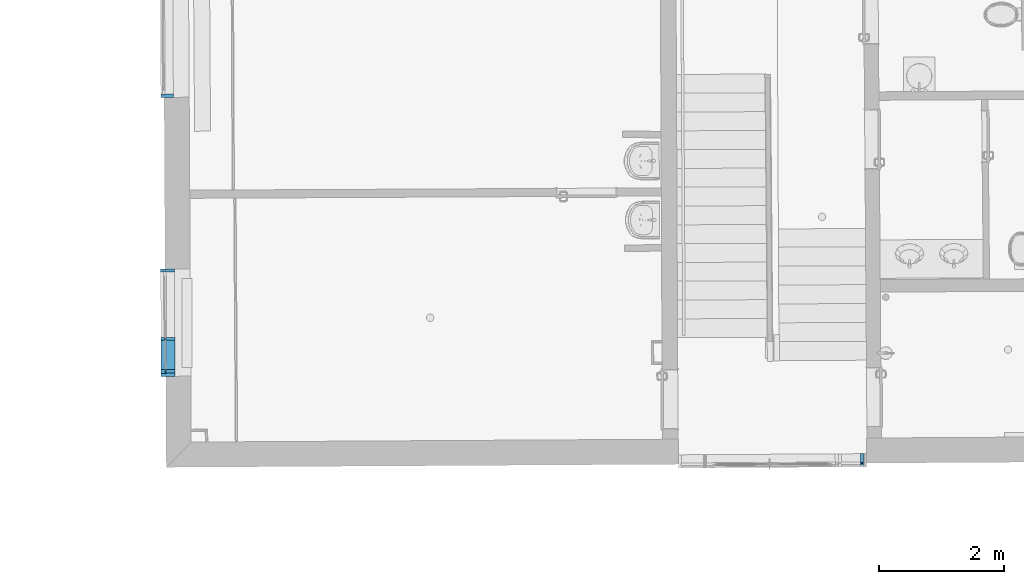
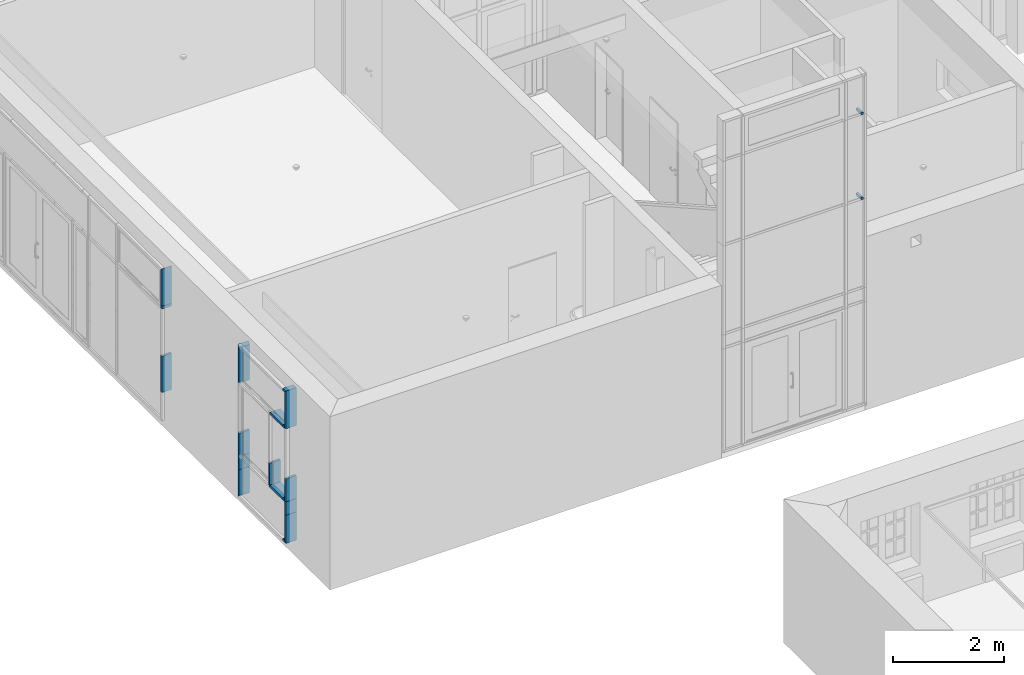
# One storey, part 149 of 196: 20 building element parts, 3 elements without a shape of their own.
"""IFC2X3 building model written with IfcOpenShell, lengths in metres."""

from ifc_helpers import new_model, entity, si_unit, converted_unit, derived_unit, money_unit, direction, frame, origin_with_axes, place, context, subcontext, project, spatial, faceted_brep, material, type_object, element, aggregate, save


model = new_model("IFC2X3")

# Units and contexts
model_context = context("Model", 3, precision=1e-05, world=origin_with_axes(), true_north=direction((0.0, 1.0)))
body_context = subcontext(model_context, "Body", "Model", "MODEL_VIEW")
ifc_project = project(units=[si_unit("LENGTHUNIT", "METRE"), si_unit("AREAUNIT", "SQUARE_METRE"), si_unit("VOLUMEUNIT", "CUBIC_METRE"), converted_unit("PLANEANGLEUNIT", "DEGREE", entity("IfcPlaneAngleMeasure", 0.0174532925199), si_unit("PLANEANGLEUNIT", "RADIAN"), dimensions=[0, 0, 0, 0, 0, 0, 0]), money_unit("EUR"), converted_unit("TIMEUNIT", "Year", entity("IfcTimeMeasure", 31556926.0), si_unit("TIMEUNIT", "SECOND"), dimensions=[0, 0, 1, 0, 0, 0, 0]), si_unit("MASSUNIT", "GRAM", prefix="KILO"), si_unit("THERMODYNAMICTEMPERATUREUNIT", "DEGREE_CELSIUS"), si_unit("LUMINOUSINTENSITYUNIT", "LUMEN"), si_unit("ENERGYUNIT", "JOULE", prefix="MEGA"), derived_unit("THERMALCONDUCTANCEUNIT", [(si_unit("POWERUNIT", "WATT"), 1), (si_unit("LENGTHUNIT", "METRE"), -1), (si_unit("THERMODYNAMICTEMPERATUREUNIT", "KELVIN"), -1)]), derived_unit("SPECIFICHEATCAPACITYUNIT", [(si_unit("ENERGYUNIT", "JOULE"), 1), (si_unit("MASSUNIT", "GRAM", prefix="KILO"), -1), (si_unit("THERMODYNAMICTEMPERATUREUNIT", "KELVIN"), -1)]), derived_unit("MASSDENSITYUNIT", [(si_unit("MASSUNIT", "GRAM", prefix="KILO"), 1), (si_unit("VOLUMEUNIT", "CUBIC_METRE"), -1)])], contexts=[model_context])

# Site, building, storey
site_placement = place(None, origin_with_axes())
site = spatial("IfcSite", under=ifc_project, at=site_placement, Name="Gelände", CompositionType="ELEMENT")
building_placement = place(site_placement, origin_with_axes())
building = spatial("IfcBuilding", under=site, at=building_placement, Name="Gebäude", CompositionType="ELEMENT")
storey_placement = place(building_placement, frame((0.0, 0.0, -3.0), z_axis=(0.0, 0.0, 1.0), x_axis=(1.0, 0.0, 0.0)))
storey = spatial("IfcBuildingStorey", under=building, at=storey_placement, Name="KELLERGESCHOSS", CompositionType="ELEMENT", Elevation=-3.0)

# Proxy, building element parts
building_element_proxy_type = type_object("IfcBuildingElementProxyType", Name="Fassadentyp", PredefinedType="NOTDEFINED")
proxy_1_placement = place(storey_placement, frame((-34.829315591, 32.8962799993, 0.42102562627), z_axis=(0.0, 0.0, 1.0), x_axis=(1.0, 0.0, 0.0)))
proxy_1 = element("IfcBuildingElementProxy", 1, at=proxy_1_placement, inside=storey, type_object=building_element_proxy_type, Name="Fassade-002")
ifc_material = material(Name="53_Metall, Aluminium")
building_element_part_1_placement = place(proxy_1_placement, origin_with_axes())
building_element_part_1 = element("IfcBuildingElementPart", 2, at=building_element_part_1_placement, material=ifc_material, Name="53_Metall, Aluminium", context=body_context, shape_type="Brep", body=[
    faceted_brep([(0.0131862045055, -0.555299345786, 0.904643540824), (0.0131862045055, -0.555299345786, 0.889643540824), (0.153183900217, -0.554496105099, 0.889643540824), (0.153183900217, -0.554496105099, 0.939643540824), (0.0131862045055, -0.555299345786, 0.939643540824), (0.0131862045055, -0.555299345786, 0.924643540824), (-0.00681346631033, -0.555414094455, 0.924643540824), (-0.00681346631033, -0.555414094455, 0.939643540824), (-0.0668124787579, -0.555758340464, 0.939643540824), (-0.0668124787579, -0.555758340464, 0.889643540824), (-0.00681346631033, -0.555414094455, 0.889643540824), (-0.00681346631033, -0.555414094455, 0.904643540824), (0.0128502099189, -0.496738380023, 0.904643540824), (0.0128502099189, -0.496738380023, 0.889643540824), (0.152847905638, -0.495935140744, 0.889643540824), (0.152847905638, -0.495935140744, 0.939643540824), (0.0128502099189, -0.496738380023, 0.939643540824), (0.0128502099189, -0.496738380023, 0.924643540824), (-0.00714946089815, -0.496853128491, 0.924643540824), (-0.00714946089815, -0.496853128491, 0.939643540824), (-0.0671484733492, -0.497197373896, 0.939643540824), (-0.0671484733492, -0.497197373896, 0.889643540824), (-0.00714946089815, -0.496853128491, 0.889643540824), (-0.00714946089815, -0.496853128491, 0.904643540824)], [[[0, 1, 2, 3, 4, 5, 6, 7, 8, 9, 10, 11]], [[1, 0, 12, 13]], [[1, 13, 14, 2]], [[3, 2, 14, 15]], [[4, 3, 15, 16]], [[4, 16, 17, 5]], [[5, 17, 18, 6]], [[7, 6, 18, 19]], [[19, 20, 8, 7]], [[9, 8, 20, 21]], [[22, 10, 9, 21]], [[11, 10, 22, 23]], [[0, 11, 23, 12]], [[23, 22, 21, 20, 19, 18, 17, 16, 15, 14, 13, 12]]]),
])
building_element_part_2_placement = place(proxy_1_placement, origin_with_axes())
building_element_part_2 = element("IfcBuildingElementPart", 3, at=building_element_part_2_placement, material=ifc_material, Name="53_Metall, Aluminium", context=body_context, shape_type="Brep", body=[
    faceted_brep([(0.0131862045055, -0.555299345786, 2.5099999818), (0.0131862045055, -0.555299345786, 2.4949999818), (0.153183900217, -0.554496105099, 2.4949999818), (0.153183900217, -0.554496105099, 2.5449999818), (0.0131862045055, -0.555299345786, 2.5449999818), (0.0131862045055, -0.555299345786, 2.5299999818), (-0.00681346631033, -0.555414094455, 2.5299999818), (-0.00681346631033, -0.555414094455, 2.5449999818), (-0.0668124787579, -0.555758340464, 2.5449999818), (-0.0668124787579, -0.555758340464, 2.4949999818), (-0.00681346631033, -0.555414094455, 2.4949999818), (-0.00681346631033, -0.555414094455, 2.5099999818), (0.0128502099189, -0.496738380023, 2.5099999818), (0.0128502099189, -0.496738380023, 2.4949999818), (0.152847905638, -0.495935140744, 2.4949999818), (0.152847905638, -0.495935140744, 2.5449999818), (0.0128502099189, -0.496738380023, 2.5449999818), (0.0128502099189, -0.496738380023, 2.5299999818), (-0.00714946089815, -0.496853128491, 2.5299999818), (-0.00714946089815, -0.496853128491, 2.5449999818), (-0.0671484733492, -0.497197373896, 2.5449999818), (-0.0671484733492, -0.497197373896, 2.4949999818), (-0.00714946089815, -0.496853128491, 2.4949999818), (-0.00714946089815, -0.496853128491, 2.5099999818)], [[[0, 1, 2, 3, 4, 5, 6, 7, 8, 9, 10, 11]], [[1, 0, 12, 13]], [[1, 13, 14, 2]], [[3, 2, 14, 15]], [[4, 3, 15, 16]], [[4, 16, 17, 5]], [[5, 17, 18, 6]], [[7, 6, 18, 19]], [[19, 20, 8, 7]], [[9, 8, 20, 21]], [[22, 10, 9, 21]], [[11, 10, 22, 23]], [[0, 11, 23, 12]], [[23, 22, 21, 20, 19, 18, 17, 16, 15, 14, 13, 12]]]),
])
building_element_part_3_placement = place(proxy_1_placement, origin_with_axes())
building_element_part_3 = element("IfcBuildingElementPart", 4, at=building_element_part_3_placement, material=ifc_material, Name="53_Metall, Aluminium", context=body_context, shape_type="Brep", body=[
    faceted_brep([(0.0132722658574, -0.570299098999, 0.0349999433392), (-0.0067274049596, -0.570413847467, 0.0349999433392), (-0.0068134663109, -0.555414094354, 0.0499999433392), (-0.0668124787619, -0.55575833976, 0.0499999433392), (-0.0665256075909, -0.605757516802, -5.6660805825e-08), (0.153470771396, -0.60449528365, -5.6660805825e-08), (0.153183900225, -0.554496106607, 0.0499999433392), (0.0131862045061, -0.555299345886, 0.0499999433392), (0.0128502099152, -0.49673837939, 0.0349999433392), (-0.00714946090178, -0.496853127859, 0.0349999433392), (-0.00714946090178, -0.496853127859, 0.0499999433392), (-0.0671484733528, -0.497197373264, 0.0499999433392), (-0.0671484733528, -0.497197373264, -5.6660805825e-08), (0.152847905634, -0.495935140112, -5.6660805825e-08), (0.152847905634, -0.495935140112, 0.0499999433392), (0.0128502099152, -0.49673837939, 0.0499999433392)], [[[0, 1, 2, 3, 4, 5, 6, 7]], [[1, 0, 8, 9]], [[10, 2, 1, 9]], [[2, 10, 11, 3]], [[12, 4, 3, 11]], [[13, 5, 4, 12]], [[14, 6, 5, 13]], [[15, 7, 6, 14]], [[0, 7, 15, 8]], [[8, 15, 14, 13, 12, 11, 10, 9]]]),
])
building_element_part_4_placement = place(proxy_1_placement, origin_with_axes())
building_element_part_4 = element("IfcBuildingElementPart", 5, at=building_element_part_4_placement, material=ifc_material, Name="53_Metall, Aluminium", context=body_context, shape_type="Brep", body=[
    faceted_brep([(0.0101041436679, -0.0181226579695, 1.4199999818), (0.0101902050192, -0.0331224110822, 1.4199999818), (0.150187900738, -0.0323191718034, 1.4199999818), (0.149901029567, 0.0176800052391, 1.4199999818), (0.00990333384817, 0.0168767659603, 1.4199999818), (0.00998939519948, 0.00187701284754, 1.4199999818), (-0.0100102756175, 0.00176226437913, 1.4199999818), (-0.0100963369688, 0.0167620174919, 1.4199999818), (-0.0700953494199, 0.0164177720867, 1.4199999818), (-0.0698084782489, -0.0335814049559, 1.4199999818), (-0.00980946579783, -0.0332371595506, 1.4199999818), (-0.00989552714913, -0.0182374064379, 1.4199999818), (0.0101041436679, -0.0181226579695, 0.920851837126), (0.0101902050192, -0.0331224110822, 0.920851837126), (0.150187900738, -0.0323191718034, 0.920851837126), (0.149901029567, 0.0176800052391, 0.920851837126), (0.00990333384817, 0.0168767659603, 0.920851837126), (0.00998939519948, 0.00187701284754, 0.920851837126), (-0.0100102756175, 0.00176226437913, 0.920851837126), (-0.0100963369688, 0.0167620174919, 0.920851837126), (-0.0700953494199, 0.0164177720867, 0.920851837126), (-0.0698084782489, -0.0335814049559, 0.920851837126), (-0.00980946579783, -0.0332371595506, 0.920851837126), (-0.00989552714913, -0.0182374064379, 0.920851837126)], [[[0, 1, 2, 3, 4, 5, 6, 7, 8, 9, 10, 11]], [[1, 0, 12, 13]], [[1, 13, 14, 2]], [[3, 2, 14, 15]], [[4, 3, 15, 16]], [[4, 16, 17, 5]], [[5, 17, 18, 6]], [[7, 6, 18, 19]], [[19, 20, 8, 7]], [[9, 8, 20, 21]], [[22, 10, 9, 21]], [[11, 10, 22, 23]], [[0, 11, 23, 12]], [[23, 22, 21, 20, 19, 18, 17, 16, 15, 14, 13, 12]]]),
])
building_element_part_5_placement = place(proxy_1_placement, origin_with_axes())
building_element_part_5 = element("IfcBuildingElementPart", 6, at=building_element_part_5_placement, material=ifc_material, Name="53_Metall, Aluminium", context=body_context, shape_type="Brep", body=[
    faceted_brep([(0.0132722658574, -0.570299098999, 1.4199999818), (-0.0067274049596, -0.570413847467, 1.4199999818), (-0.0068134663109, -0.555414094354, 1.4199999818), (-0.0668124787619, -0.55575833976, 1.4199999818), (-0.0665256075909, -0.605757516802, 1.4199999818), (0.153470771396, -0.60449528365, 1.4199999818), (0.153183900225, -0.554496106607, 1.4199999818), (0.0131862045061, -0.555299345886, 1.4199999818), (0.0132722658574, -0.570299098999, 0.914643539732), (-0.0067274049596, -0.570413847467, 0.914643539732), (-0.0068134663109, -0.555414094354, 0.914643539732), (-0.0668124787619, -0.55575833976, 0.914643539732), (-0.0665256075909, -0.605757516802, 0.914643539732), (0.153470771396, -0.60449528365, 0.914643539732), (0.153183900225, -0.554496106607, 0.914643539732), (0.0131862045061, -0.555299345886, 0.914643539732)], [[[0, 1, 2, 3, 4, 5, 6, 7]], [[1, 0, 8, 9]], [[10, 2, 1, 9]], [[2, 10, 11, 3]], [[12, 4, 3, 11]], [[13, 5, 4, 12]], [[14, 6, 5, 13]], [[15, 7, 6, 14]], [[0, 7, 15, 8]], [[8, 15, 14, 13, 12, 11, 10, 9]]]),
])
building_element_part_6_placement = place(proxy_1_placement, origin_with_axes())
building_element_part_6 = element("IfcBuildingElementPart", 7, at=building_element_part_6_placement, material=ifc_material, Name="53_Metall, Aluminium", context=body_context, shape_type="Brep", body=[
    faceted_brep([(0.0132722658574, -0.570299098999, 0.619999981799), (-0.0067274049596, -0.570413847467, 0.619999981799), (-0.0068134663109, -0.555414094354, 0.619999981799), (-0.0668124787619, -0.55575833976, 0.619999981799), (-0.0665256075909, -0.605757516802, 0.619999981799), (0.153470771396, -0.60449528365, 0.619999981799), (0.153183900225, -0.554496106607, 0.619999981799), (0.0131862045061, -0.555299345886, 0.619999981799), (0.0132722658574, -0.570299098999, 0.0349999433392), (-0.0067274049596, -0.570413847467, 0.0349999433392), (-0.0068134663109, -0.555414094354, 0.0499999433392), (-0.0668124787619, -0.55575833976, 0.0499999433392), (-0.0665256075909, -0.605757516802, -5.66608053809e-08), (0.153470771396, -0.60449528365, -5.66608053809e-08), (0.153183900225, -0.554496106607, 0.0499999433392), (0.0131862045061, -0.555299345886, 0.0499999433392)], [[[0, 1, 2, 3, 4, 5, 6, 7]], [[1, 0, 8, 9]], [[10, 2, 1, 9]], [[2, 10, 11, 3]], [[4, 3, 11, 12]], [[5, 4, 12, 13]], [[6, 5, 13, 14]], [[15, 7, 6, 14]], [[0, 7, 15, 8]], [[8, 15, 14, 13, 12, 11, 10, 9]]]),
])
building_element_part_7_placement = place(proxy_1_placement, origin_with_axes())
building_element_part_7 = element("IfcBuildingElementPart", 8, at=building_element_part_7_placement, material=ifc_material, Name="53_Metall, Aluminium", context=body_context, shape_type="Brep", body=[
    faceted_brep([(0.0132722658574, -0.570299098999, 0.914643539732), (-0.0067274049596, -0.570413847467, 0.914643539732), (-0.0068134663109, -0.555414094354, 0.914643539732), (-0.0668124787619, -0.55575833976, 0.914643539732), (-0.0665256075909, -0.605757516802, 0.914643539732), (0.153470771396, -0.60449528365, 0.914643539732), (0.153183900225, -0.554496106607, 0.914643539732), (0.0131862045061, -0.555299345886, 0.914643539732), (0.0132722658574, -0.570299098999, 0.619999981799), (-0.0067274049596, -0.570413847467, 0.619999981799), (-0.0068134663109, -0.555414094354, 0.619999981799), (-0.0668124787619, -0.55575833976, 0.619999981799), (-0.0665256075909, -0.605757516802, 0.619999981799), (0.153470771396, -0.60449528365, 0.619999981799), (0.153183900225, -0.554496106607, 0.619999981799), (0.0131862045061, -0.555299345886, 0.619999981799)], [[[0, 1, 2, 3, 4, 5, 6, 7]], [[1, 0, 8, 9]], [[10, 2, 1, 9]], [[2, 10, 11, 3]], [[12, 4, 3, 11]], [[13, 5, 4, 12]], [[14, 6, 5, 13]], [[15, 7, 6, 14]], [[0, 7, 15, 8]], [[8, 15, 14, 13, 12, 11, 10, 9]]]),
])
building_element_part_8_placement = place(proxy_1_placement, origin_with_axes())
building_element_part_8 = element("IfcBuildingElementPart", 9, at=building_element_part_8_placement, material=ifc_material, Name="53_Metall, Aluminium", context=body_context, shape_type="Brep", body=[
    faceted_brep([(0.00385356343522, 1.07129970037, 1.4199999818), (0.00393962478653, 1.05629994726, 1.4199999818), (0.143937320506, 1.05710318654, 1.4199999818), (0.143650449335, 1.10710236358, 1.4199999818), (-0.0763459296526, 1.10584013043, 1.4199999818), (-0.0760590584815, 1.05584095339, 1.4199999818), (-0.0160600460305, 1.05618519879, 1.4199999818), (-0.0161461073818, 1.0711849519, 1.4199999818), (0.00385356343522, 1.07129970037, 0.914643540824), (0.00393962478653, 1.05629994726, 0.914643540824), (0.143937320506, 1.05710318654, 0.914643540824), (0.143650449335, 1.10710236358, 0.914643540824), (-0.0763459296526, 1.10584013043, 0.914643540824), (-0.0760590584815, 1.05584095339, 0.914643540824), (-0.0160600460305, 1.05618519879, 0.914643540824), (-0.0161461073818, 1.0711849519, 0.914643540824)], [[[0, 1, 2, 3, 4, 5, 6, 7]], [[0, 8, 9, 1]], [[9, 10, 2, 1]], [[10, 11, 3, 2]], [[11, 12, 4, 3]], [[12, 13, 5, 4]], [[6, 5, 13, 14]], [[14, 15, 7, 6]], [[7, 15, 8, 0]], [[8, 15, 14, 13, 12, 11, 10, 9]]]),
])
building_element_part_9_placement = place(proxy_1_placement, origin_with_axes())
building_element_part_9 = element("IfcBuildingElementPart", 10, at=building_element_part_9_placement, material=ifc_material, Name="53_Metall, Aluminium", context=body_context, shape_type="Brep", body=[
    faceted_brep([(0.00385356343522, 1.07129970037, 3.31499991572), (0.00393962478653, 1.05629994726, 3.29999991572), (0.143937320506, 1.05710318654, 3.29999991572), (0.143650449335, 1.10710236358, 3.34999991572), (-0.0763459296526, 1.10584013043, 3.34999991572), (-0.0760590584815, 1.05584095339, 3.29999991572), (-0.0160600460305, 1.05618519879, 3.29999991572), (-0.0161461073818, 1.0711849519, 3.31499991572), (0.00385356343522, 1.07129970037, 2.5199999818), (0.00393962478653, 1.05629994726, 2.5199999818), (0.143937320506, 1.05710318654, 2.5199999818), (0.143650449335, 1.10710236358, 2.5199999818), (-0.0763459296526, 1.10584013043, 2.5199999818), (-0.0760590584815, 1.05584095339, 2.5199999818), (-0.0160600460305, 1.05618519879, 2.5199999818), (-0.0161461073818, 1.0711849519, 2.5199999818)], [[[0, 1, 2, 3, 4, 5, 6, 7]], [[0, 8, 9, 1]], [[9, 10, 2, 1]], [[10, 11, 3, 2]], [[11, 12, 4, 3]], [[12, 13, 5, 4]], [[6, 5, 13, 14]], [[14, 15, 7, 6]], [[7, 15, 8, 0]], [[8, 15, 14, 13, 12, 11, 10, 9]]]),
])
building_element_part_10_placement = place(proxy_1_placement, origin_with_axes())
building_element_part_10 = element("IfcBuildingElementPart", 11, at=building_element_part_10_placement, material=ifc_material, Name="53_Metall, Aluminium", context=body_context, shape_type="Brep", body=[
    faceted_brep([(0.0132722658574, -0.570299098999, 3.31499991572), (0.0131862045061, -0.555299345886, 3.29999991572), (0.153183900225, -0.554496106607, 3.29999991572), (0.153470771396, -0.60449528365, 3.34999991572), (-0.0665256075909, -0.605757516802, 3.34999991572), (-0.0668124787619, -0.55575833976, 3.29999991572), (-0.0068134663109, -0.555414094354, 3.29999991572), (-0.0067274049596, -0.570413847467, 3.31499991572), (0.0128502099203, -0.496738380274, 3.31499991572), (0.0128502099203, -0.496738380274, 3.29999991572), (0.152847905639, -0.495935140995, 3.29999991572), (0.152847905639, -0.495935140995, 3.34999991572), (-0.0671484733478, -0.497197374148, 3.34999991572), (-0.0671484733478, -0.497197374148, 3.29999991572), (-0.00714946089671, -0.496853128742, 3.29999991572), (-0.00714946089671, -0.496853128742, 3.31499991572)], [[[0, 1, 2, 3, 4, 5, 6, 7]], [[0, 8, 9, 1]], [[9, 10, 2, 1]], [[10, 11, 3, 2]], [[11, 12, 4, 3]], [[12, 13, 5, 4]], [[6, 5, 13, 14]], [[14, 15, 7, 6]], [[7, 15, 8, 0]], [[8, 15, 14, 13, 12, 11, 10, 9]]]),
])
building_element_part_11_placement = place(proxy_1_placement, origin_with_axes())
building_element_part_11 = element("IfcBuildingElementPart", 12, at=building_element_part_11_placement, material=ifc_material, Name="53_Metall, Aluminium", context=body_context, shape_type="Brep", body=[
    faceted_brep([(0.00385356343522, 1.07129970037, 0.619999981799), (0.00393962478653, 1.05629994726, 0.619999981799), (0.143937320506, 1.05710318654, 0.619999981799), (0.143650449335, 1.10710236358, 0.619999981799), (-0.0763459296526, 1.10584013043, 0.619999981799), (-0.0760590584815, 1.05584095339, 0.619999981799), (-0.0160600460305, 1.05618519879, 0.619999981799), (-0.0161461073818, 1.0711849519, 0.619999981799), (0.00385356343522, 1.07129970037, 0.0349999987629), (0.00393962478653, 1.05629994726, 0.0499999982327), (0.143937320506, 1.05710318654, 0.0499999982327), (0.143650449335, 1.10710236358, 0.0), (-0.0763459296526, 1.10584013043, 0.0), (-0.0760590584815, 1.05584095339, 0.0499999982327), (-0.0160600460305, 1.05618519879, 0.0499999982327), (-0.0161461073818, 1.0711849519, 0.0349999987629)], [[[0, 1, 2, 3, 4, 5, 6, 7]], [[0, 8, 9, 1]], [[9, 10, 2, 1]], [[2, 10, 11, 3]], [[3, 11, 12, 4]], [[4, 12, 13, 5]], [[6, 5, 13, 14]], [[14, 15, 7, 6]], [[7, 15, 8, 0]], [[8, 15, 14, 13, 12, 11, 10, 9]]]),
])
building_element_part_12_placement = place(proxy_1_placement, origin_with_axes())
building_element_part_12 = element("IfcBuildingElementPart", 13, at=building_element_part_12_placement, material=ifc_material, Name="53_Metall, Aluminium", context=body_context, shape_type="Brep", body=[
    faceted_brep([(0.0132722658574, -0.570299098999, 3.31499991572), (-0.0067274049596, -0.570413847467, 3.31499991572), (-0.0068134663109, -0.555414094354, 3.29999991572), (-0.0668124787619, -0.55575833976, 3.29999991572), (-0.0665256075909, -0.605757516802, 3.34999991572), (0.153470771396, -0.60449528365, 3.34999991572), (0.153183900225, -0.554496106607, 3.29999991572), (0.0131862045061, -0.555299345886, 3.29999991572), (0.0132722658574, -0.570299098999, 2.5199999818), (-0.0067274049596, -0.570413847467, 2.5199999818), (-0.0068134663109, -0.555414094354, 2.5199999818), (-0.0668124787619, -0.55575833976, 2.5199999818), (-0.0665256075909, -0.605757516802, 2.5199999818), (0.153470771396, -0.60449528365, 2.5199999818), (0.153183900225, -0.554496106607, 2.5199999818), (0.0131862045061, -0.555299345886, 2.5199999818)], [[[0, 1, 2, 3, 4, 5, 6, 7]], [[1, 0, 8, 9]], [[10, 2, 1, 9]], [[2, 10, 11, 3]], [[12, 4, 3, 11]], [[13, 5, 4, 12]], [[14, 6, 5, 13]], [[15, 7, 6, 14]], [[0, 7, 15, 8]], [[8, 15, 14, 13, 12, 11, 10, 9]]]),
])
building_element_part_13_placement = place(proxy_1_placement, origin_with_axes())
building_element_part_13 = element("IfcBuildingElementPart", 14, at=building_element_part_13_placement, material=ifc_material, Name="53_Metall, Aluminium", context=body_context, shape_type="Brep", body=[
    faceted_brep([(0.0128502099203, -0.496738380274, 2.5099999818), (0.0128502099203, -0.496738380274, 2.4949999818), (0.152847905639, -0.495935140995, 2.4949999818), (0.152847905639, -0.495935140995, 2.5449999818), (0.0128502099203, -0.496738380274, 2.5449999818), (0.0128502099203, -0.496738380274, 2.5299999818), (-0.00714946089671, -0.496853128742, 2.5299999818), (-0.00714946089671, -0.496853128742, 2.5449999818), (-0.0671484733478, -0.497197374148, 2.5449999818), (-0.0671484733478, -0.497197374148, 2.4949999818), (-0.00714946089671, -0.496853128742, 2.4949999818), (-0.00714946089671, -0.496853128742, 2.5099999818), (0.0101902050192, -0.0331224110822, 2.5099999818), (0.0101902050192, -0.0331224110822, 2.4949999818), (0.150187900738, -0.0323191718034, 2.4949999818), (0.150187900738, -0.0323191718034, 2.5449999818), (0.0101902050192, -0.0331224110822, 2.5449999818), (0.0101902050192, -0.0331224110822, 2.5299999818), (-0.00980946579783, -0.0332371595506, 2.5299999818), (-0.00980946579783, -0.0332371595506, 2.5449999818), (-0.0698084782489, -0.0335814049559, 2.5449999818), (-0.0698084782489, -0.0335814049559, 2.4949999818), (-0.00980946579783, -0.0332371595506, 2.4949999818), (-0.00980946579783, -0.0332371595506, 2.5099999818)], [[[0, 1, 2, 3, 4, 5, 6, 7, 8, 9, 10, 11]], [[1, 0, 12, 13]], [[1, 13, 14, 2]], [[2, 14, 15, 3]], [[4, 3, 15, 16]], [[4, 16, 17, 5]], [[5, 17, 18, 6]], [[7, 6, 18, 19]], [[19, 20, 8, 7]], [[8, 20, 21, 9]], [[22, 10, 9, 21]], [[11, 10, 22, 23]], [[0, 11, 23, 12]], [[23, 22, 21, 20, 19, 18, 17, 16, 15, 14, 13, 12]]]),
])
building_element_part_14_placement = place(proxy_1_placement, origin_with_axes())
building_element_part_14 = element("IfcBuildingElementPart", 15, at=building_element_part_14_placement, material=ifc_material, Name="53_Metall, Aluminium", context=body_context, shape_type="Brep", body=[
    faceted_brep([(0.0128502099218, -0.496738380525, 0.904643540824), (0.0128502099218, -0.496738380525, 0.889643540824), (0.152847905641, -0.495935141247, 0.889643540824), (0.152847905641, -0.495935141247, 0.939643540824), (0.0128502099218, -0.496738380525, 0.939643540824), (0.0128502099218, -0.496738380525, 0.924643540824), (-0.00714946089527, -0.496853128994, 0.924643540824), (-0.00714946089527, -0.496853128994, 0.939643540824), (-0.0671484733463, -0.497197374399, 0.939643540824), (-0.0671484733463, -0.497197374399, 0.889643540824), (-0.00714946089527, -0.496853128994, 0.889643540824), (-0.00714946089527, -0.496853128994, 0.904643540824), (0.0100467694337, -0.00812282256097, 0.904643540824), (0.0100467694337, -0.00812282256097, 0.889643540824), (0.150044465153, -0.00731958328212, 0.889643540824), (0.150044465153, -0.00731958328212, 0.939643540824), (0.0100467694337, -0.00812282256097, 0.939643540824), (0.0100467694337, -0.00812282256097, 0.924643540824), (-0.00995290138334, -0.00823757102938, 0.924643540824), (-0.00995290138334, -0.00823757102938, 0.939643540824), (-0.0699519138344, -0.0085818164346, 0.939643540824), (-0.0699519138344, -0.0085818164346, 0.889643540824), (-0.00995290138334, -0.00823757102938, 0.889643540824), (-0.00995290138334, -0.00823757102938, 0.904643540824)], [[[0, 1, 2, 3, 4, 5, 6, 7, 8, 9, 10, 11]], [[1, 0, 12, 13]], [[1, 13, 14, 2]], [[3, 2, 14, 15]], [[4, 3, 15, 16]], [[4, 16, 17, 5]], [[5, 17, 18, 6]], [[7, 6, 18, 19]], [[19, 20, 8, 7]], [[9, 8, 20, 21]], [[22, 10, 9, 21]], [[11, 10, 22, 23]], [[0, 11, 23, 12]], [[23, 22, 21, 20, 19, 18, 17, 16, 15, 14, 13, 12]]]),
])
building_element_part_15_placement = place(proxy_1_placement, origin_with_axes())
building_element_part_15 = element("IfcBuildingElementPart", 16, at=building_element_part_15_placement, material=ifc_material, Name="53_Metall, Aluminium", context=body_context, shape_type="Brep", body=[
    faceted_brep([(0.00385356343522, 1.07129970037, 0.914643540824), (0.00393962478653, 1.05629994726, 0.914643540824), (0.143937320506, 1.05710318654, 0.914643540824), (0.143650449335, 1.10710236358, 0.914643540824), (-0.0763459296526, 1.10584013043, 0.914643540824), (-0.0760590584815, 1.05584095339, 0.914643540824), (-0.0160600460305, 1.05618519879, 0.914643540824), (-0.0161461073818, 1.0711849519, 0.914643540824), (0.00385356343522, 1.07129970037, 0.619999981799), (0.00393962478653, 1.05629994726, 0.619999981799), (0.143937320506, 1.05710318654, 0.619999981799), (0.143650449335, 1.10710236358, 0.619999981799), (-0.0763459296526, 1.10584013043, 0.619999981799), (-0.0760590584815, 1.05584095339, 0.619999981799), (-0.0160600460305, 1.05618519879, 0.619999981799), (-0.0161461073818, 1.0711849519, 0.619999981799)], [[[0, 1, 2, 3, 4, 5, 6, 7]], [[0, 8, 9, 1]], [[9, 10, 2, 1]], [[10, 11, 3, 2]], [[11, 12, 4, 3]], [[12, 13, 5, 4]], [[6, 5, 13, 14]], [[14, 15, 7, 6]], [[7, 15, 8, 0]], [[8, 15, 14, 13, 12, 11, 10, 9]]]),
])
aggregate(proxy_1, [building_element_part_1, building_element_part_2, building_element_part_3, building_element_part_4, building_element_part_5, building_element_part_6, building_element_part_7, building_element_part_8, building_element_part_9, building_element_part_10, building_element_part_11, building_element_part_12, building_element_part_13, building_element_part_14, building_element_part_15])

proxy_2_placement = place(storey_placement, frame((-23.8310150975, 30.9074049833, 0.410855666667), z_axis=(0.0, 0.0, 1.0), x_axis=(1.0, 0.0, 0.0)))
proxy_2 = element("IfcBuildingElementProxy", 17, at=proxy_2_placement, inside=storey, type_object=building_element_proxy_type, Name="Fassade-002")
building_element_part_16_placement = place(proxy_2_placement, origin_with_axes())
building_element_part_16 = element("IfcBuildingElementPart", 18, at=building_element_part_16_placement, material=ifc_material, Name="53_Metall, Aluminium", context=body_context, shape_type="Brep", body=[
    faceted_brep([(0.132198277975, 0.0107914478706, 6.39594888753), (0.132198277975, 0.0107914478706, 6.38094888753), (0.131360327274, 0.150788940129, 6.38094888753), (0.131360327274, 0.150788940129, 6.43094888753), (0.132198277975, 0.0107914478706, 6.43094888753), (0.132198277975, 0.0107914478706, 6.41594888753), (0.132317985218, -0.00920819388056, 6.41594888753), (0.132317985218, -0.00920819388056, 6.43094888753), (0.132437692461, -0.0292078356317, 6.43094888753), (0.132437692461, -0.0292078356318, 6.38094888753), (0.132317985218, -0.00920819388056, 6.38094888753), (0.132317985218, -0.00920819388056, 6.39594888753), (0.0834090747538, 0.0104994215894, 6.39594888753), (0.0834090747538, 0.0104994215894, 6.38094888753), (0.0825711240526, 0.150496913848, 6.38094888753), (0.0825711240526, 0.150496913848, 6.43094888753), (0.0834090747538, 0.0104994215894, 6.43094888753), (0.0834090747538, 0.0104994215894, 6.41594888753), (0.0835287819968, -0.00950022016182, 6.41594888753), (0.0835287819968, -0.00950022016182, 6.43094888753), (0.0836484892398, -0.029499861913, 6.43094888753), (0.0836484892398, -0.029499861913, 6.38094888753), (0.0835287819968, -0.00950022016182, 6.38094888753), (0.0835287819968, -0.00950022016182, 6.39594888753)], [[[0, 1, 2, 3, 4, 5, 6, 7, 8, 9, 10, 11]], [[1, 0, 12, 13]], [[1, 13, 14, 2]], [[3, 2, 14, 15]], [[4, 3, 15, 16]], [[4, 16, 17, 5]], [[5, 17, 18, 6]], [[7, 6, 18, 19]], [[19, 20, 8, 7]], [[9, 8, 20, 21]], [[22, 10, 9, 21]], [[11, 10, 22, 23]], [[0, 11, 23, 12]], [[23, 22, 21, 20, 19, 18, 17, 16, 15, 14, 13, 12]]]),
])
building_element_part_17_placement = place(proxy_2_placement, origin_with_axes())
building_element_part_17 = element("IfcBuildingElementPart", 19, at=building_element_part_17_placement, material=ifc_material, Name="53_Metall, Aluminium", context=body_context, shape_type="Brep", body=[
    faceted_brep([(0.132198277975, 0.0107914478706, 4.5322628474), (0.132198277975, 0.0107914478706, 4.5172628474), (0.131360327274, 0.150788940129, 4.5172628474), (0.131360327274, 0.150788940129, 4.5672628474), (0.132198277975, 0.0107914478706, 4.5672628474), (0.132198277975, 0.0107914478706, 4.5522628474), (0.132317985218, -0.00920819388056, 4.5522628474), (0.132317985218, -0.00920819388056, 4.5672628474), (0.132437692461, -0.0292078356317, 4.5672628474), (0.132437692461, -0.0292078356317, 4.5172628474), (0.132317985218, -0.00920819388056, 4.5172628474), (0.132317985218, -0.00920819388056, 4.5322628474), (0.0834090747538, 0.0104994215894, 4.5322628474), (0.0834090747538, 0.0104994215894, 4.5172628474), (0.0825711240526, 0.150496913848, 4.5172628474), (0.0825711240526, 0.150496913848, 4.5672628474), (0.0834090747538, 0.0104994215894, 4.5672628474), (0.0834090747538, 0.0104994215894, 4.5522628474), (0.0835287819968, -0.00950022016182, 4.5522628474), (0.0835287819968, -0.00950022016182, 4.5672628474), (0.0836484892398, -0.029499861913, 4.5672628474), (0.0836484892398, -0.029499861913, 4.5172628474), (0.0835287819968, -0.00950022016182, 4.5172628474), (0.0835287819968, -0.00950022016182, 4.5322628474)], [[[0, 1, 2, 3, 4, 5, 6, 7, 8, 9, 10, 11]], [[1, 0, 12, 13]], [[1, 13, 14, 2]], [[3, 2, 14, 15]], [[4, 3, 15, 16]], [[4, 16, 17, 5]], [[5, 17, 18, 6]], [[7, 6, 18, 19]], [[19, 20, 8, 7]], [[9, 8, 20, 21]], [[22, 10, 9, 21]], [[11, 10, 22, 23]], [[0, 11, 23, 12]], [[23, 22, 21, 20, 19, 18, 17, 16, 15, 14, 13, 12]]]),
])
aggregate(proxy_2, [building_element_part_16, building_element_part_17])

proxy_3_placement = place(storey_placement, frame((-34.8766751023, 40.9954775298, 0.421025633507), z_axis=(0.0, 0.0, 1.0), x_axis=(1.0, 0.0, 0.0)))
proxy_3 = element("IfcBuildingElementProxy", 20, at=proxy_3_placement, inside=storey, type_object=building_element_proxy_type, Name="Fassade-002")
building_element_part_18_placement = place(proxy_3_placement, origin_with_axes())
building_element_part_18 = element("IfcBuildingElementPart", 21, at=building_element_part_18_placement, material=ifc_material, Name="53_Metall, Aluminium", context=body_context, shape_type="Brep", body=[
    faceted_brep([(0.0347523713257, -4.22045323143, 1.41999997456), (0.0147527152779, -4.22057052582, 1.41999997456), (0.0146647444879, -4.20557078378, 1.41999997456), (-0.0253345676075, -4.20580537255, 1.41999997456), (-0.0250413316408, -4.25580451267, 1.41999997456), (0.174955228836, -4.25463156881, 1.41999997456), (0.17466199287, -4.20463242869, 1.41999997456), (0.0346644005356, -4.20545348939, 1.41999997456), (0.0347523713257, -4.22045323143, 0.619999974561), (0.0147527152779, -4.22057052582, 0.619999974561), (0.0146647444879, -4.20557078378, 0.619999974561), (-0.0253345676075, -4.20580537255, 0.619999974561), (-0.0250413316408, -4.25580451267, 0.619999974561), (0.174955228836, -4.25463156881, 0.619999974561), (0.17466199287, -4.20463242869, 0.619999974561), (0.0346644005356, -4.20545348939, 0.619999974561)], [[[0, 1, 2, 3, 4, 5, 6, 7]], [[1, 0, 8, 9]], [[10, 2, 1, 9]], [[2, 10, 11, 3]], [[12, 4, 3, 11]], [[13, 5, 4, 12]], [[14, 6, 5, 13]], [[15, 7, 6, 14]], [[0, 7, 15, 8]], [[8, 15, 14, 13, 12, 11, 10, 9]]]),
])
building_element_part_19_placement = place(proxy_3_placement, origin_with_axes())
building_element_part_19 = element("IfcBuildingElementPart", 22, at=building_element_part_19_placement, material=ifc_material, Name="53_Metall, Aluminium", context=body_context, shape_type="Brep", body=[
    faceted_brep([(0.0347523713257, -4.22045323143, 2.51999996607), (0.0147527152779, -4.22057052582, 2.51999996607), (0.0146647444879, -4.20557078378, 2.51999996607), (-0.0253345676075, -4.20580537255, 2.51999996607), (-0.0250413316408, -4.25580451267, 2.51999996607), (0.174955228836, -4.25463156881, 2.51999996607), (0.17466199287, -4.20463242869, 2.51999996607), (0.0346644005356, -4.20545348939, 2.51999996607), (0.0347523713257, -4.22045323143, 2.45764331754), (0.0147527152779, -4.22057052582, 2.45764331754), (0.0146647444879, -4.20557078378, 2.45764331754), (-0.0253345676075, -4.20580537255, 2.45764331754), (-0.0250413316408, -4.25580451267, 2.45764331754), (0.174955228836, -4.25463156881, 2.45764331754), (0.17466199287, -4.20463242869, 2.45764331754), (0.0346644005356, -4.20545348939, 2.45764331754)], [[[0, 1, 2, 3, 4, 5, 6, 7]], [[1, 0, 8, 9]], [[10, 2, 1, 9]], [[2, 10, 11, 3]], [[12, 4, 3, 11]], [[13, 5, 4, 12]], [[14, 6, 5, 13]], [[15, 7, 6, 14]], [[0, 7, 15, 8]], [[8, 15, 14, 13, 12, 11, 10, 9]]]),
])
building_element_part_20_placement = place(proxy_3_placement, origin_with_axes())
building_element_part_20 = element("IfcBuildingElementPart", 23, at=building_element_part_20_placement, material=ifc_material, Name="53_Metall, Aluminium", context=body_context, shape_type="Brep", body=[
    faceted_brep([(0.0347523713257, -4.22045323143, 3.31499988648), (0.0147527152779, -4.22057052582, 3.31499988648), (0.0146647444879, -4.20557078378, 3.29999988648), (-0.0253345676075, -4.20580537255, 3.29999988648), (-0.0250413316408, -4.25580451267, 3.34999988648), (0.174955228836, -4.25463156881, 3.34999988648), (0.17466199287, -4.20463242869, 3.29999988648), (0.0346644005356, -4.20545348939, 3.29999988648), (0.0347523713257, -4.22045323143, 2.51999997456), (0.0147527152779, -4.22057052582, 2.51999997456), (0.0146647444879, -4.20557078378, 2.51999997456), (-0.0253345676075, -4.20580537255, 2.51999997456), (-0.0250413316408, -4.25580451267, 2.51999997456), (0.174955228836, -4.25463156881, 2.51999997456), (0.17466199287, -4.20463242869, 2.51999997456), (0.0346644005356, -4.20545348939, 2.51999997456)], [[[0, 1, 2, 3, 4, 5, 6, 7]], [[1, 0, 8, 9]], [[10, 2, 1, 9]], [[2, 10, 11, 3]], [[12, 4, 3, 11]], [[13, 5, 4, 12]], [[14, 6, 5, 13]], [[15, 7, 6, 14]], [[0, 7, 15, 8]], [[8, 15, 14, 13, 12, 11, 10, 9]]]),
])
aggregate(proxy_3, [building_element_part_18, building_element_part_19, building_element_part_20])

save(model, "model.ifc")
